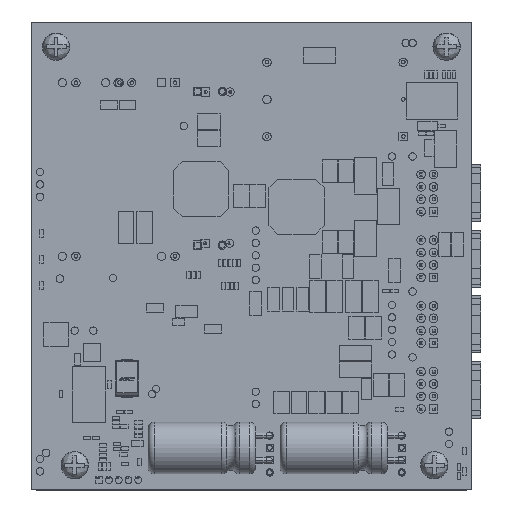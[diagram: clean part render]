
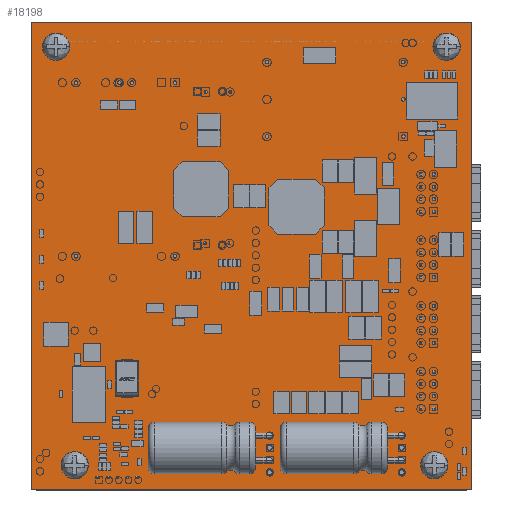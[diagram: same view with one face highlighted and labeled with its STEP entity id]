
A CAD part, front view. The second image highlights one B-rep face of the part: STEP entity #18198.
In plain terms, the highlighted planar face has unit normal (0, -1, 0) as drawn and (0, 0, -1) by its records, which use the part's own axes.
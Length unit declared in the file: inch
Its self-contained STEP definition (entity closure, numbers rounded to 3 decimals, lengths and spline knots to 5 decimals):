
#17951=DIRECTION('',(1.,0.,0.));
#17952=VECTOR('',#17951,3.55);
#17953=CARTESIAN_POINT('',(0.,0.,0.));
#17954=LINE('',#17953,#17952);
#17955=DIRECTION('',(0.,1.,0.));
#17956=VECTOR('',#17955,3.775);
#17957=CARTESIAN_POINT('',(3.55,0.,0.));
#17958=LINE('',#17957,#17956);
#17959=DIRECTION('',(-1.,0.,0.));
#17960=VECTOR('',#17959,3.55);
#17961=CARTESIAN_POINT('',(3.55,3.775,0.));
#17962=LINE('',#17961,#17960);
#17963=DIRECTION('',(0.,-1.,0.));
#17964=VECTOR('',#17963,3.775);
#17965=CARTESIAN_POINT('',(0.,3.775,0.));
#17966=LINE('',#17965,#17964);
#17967=CARTESIAN_POINT('',(3.35,0.2,0.));
#17968=DIRECTION('',(0.,0.,1.));
#17969=DIRECTION('',(1.,0.,0.));
#17970=AXIS2_PLACEMENT_3D('',#17967,#17968,#17969);
#17972=CARTESIAN_POINT('',(3.35,0.2,0.));
#17973=DIRECTION('',(0.,0.,1.));
#17974=DIRECTION('',(-1.,0.,0.));
#17975=AXIS2_PLACEMENT_3D('',#17972,#17973,#17974);
#17977=CARTESIAN_POINT('',(0.2,0.2,0.));
#17978=DIRECTION('',(0.,0.,1.));
#17979=DIRECTION('',(-1.,0.,0.));
#17980=AXIS2_PLACEMENT_3D('',#17977,#17978,#17979);
#17982=CARTESIAN_POINT('',(0.2,0.2,0.));
#17983=DIRECTION('',(0.,0.,1.));
#17984=DIRECTION('',(1.,0.,0.));
#17985=AXIS2_PLACEMENT_3D('',#17982,#17983,#17984);
#17987=CARTESIAN_POINT('',(0.35,3.575,0.));
#17988=DIRECTION('',(0.,0.,1.));
#17989=DIRECTION('',(-1.,0.,0.));
#17990=AXIS2_PLACEMENT_3D('',#17987,#17988,#17989);
#17992=CARTESIAN_POINT('',(0.35,3.575,0.));
#17993=DIRECTION('',(0.,0.,1.));
#17994=DIRECTION('',(1.,0.,0.));
#17995=AXIS2_PLACEMENT_3D('',#17992,#17993,#17994);
#17997=CARTESIAN_POINT('',(3.25,3.575,0.));
#17998=DIRECTION('',(0.,0.,1.));
#17999=DIRECTION('',(-1.,0.,0.));
#18000=AXIS2_PLACEMENT_3D('',#17997,#17998,#17999);
#18002=CARTESIAN_POINT('',(3.25,3.575,0.));
#18003=DIRECTION('',(0.,0.,1.));
#18004=DIRECTION('',(1.,0.,0.));
#18005=AXIS2_PLACEMENT_3D('',#18002,#18003,#18004);
#18111=CARTESIAN_POINT('',(0.,0.,0.));
#18112=CARTESIAN_POINT('',(3.55,0.,0.));
#18113=VERTEX_POINT('',#18111);
#18114=VERTEX_POINT('',#18112);
#18115=CARTESIAN_POINT('',(3.55,3.775,0.));
#18116=VERTEX_POINT('',#18115);
#18117=CARTESIAN_POINT('',(0.,3.775,0.));
#18118=VERTEX_POINT('',#18117);
#18127=CARTESIAN_POINT('',(3.4125,0.2,0.));
#18128=CARTESIAN_POINT('',(3.2875,0.2,0.));
#18129=VERTEX_POINT('',#18127);
#18130=VERTEX_POINT('',#18128);
#18131=CARTESIAN_POINT('',(0.1375,0.2,0.));
#18132=CARTESIAN_POINT('',(0.2625,0.2,0.));
#18133=VERTEX_POINT('',#18131);
#18134=VERTEX_POINT('',#18132);
#18135=CARTESIAN_POINT('',(0.2875,3.575,0.));
#18136=CARTESIAN_POINT('',(0.4125,3.575,0.));
#18137=VERTEX_POINT('',#18135);
#18138=VERTEX_POINT('',#18136);
#18139=CARTESIAN_POINT('',(3.1875,3.575,0.));
#18140=CARTESIAN_POINT('',(3.3125,3.575,0.));
#18141=VERTEX_POINT('',#18139);
#18142=VERTEX_POINT('',#18140);
#18159=CARTESIAN_POINT('',(0.,0.,0.));
#18160=DIRECTION('',(0.,0.,1.));
#18161=DIRECTION('',(1.,0.,0.));
#18162=AXIS2_PLACEMENT_3D('',#18159,#18160,#18161);
#18163=PLANE('',#18162);
#18165=ORIENTED_EDGE('',*,*,#18164,.T.);
#18167=ORIENTED_EDGE('',*,*,#18166,.T.);
#18169=ORIENTED_EDGE('',*,*,#18168,.T.);
#18171=ORIENTED_EDGE('',*,*,#18170,.T.);
#18172=EDGE_LOOP('',(#18165,#18167,#18169,#18171));
#18173=FACE_OUTER_BOUND('',#18172,.F.);
#18175=ORIENTED_EDGE('',*,*,#18174,.F.);
#18177=ORIENTED_EDGE('',*,*,#18176,.F.);
#18178=EDGE_LOOP('',(#18175,#18177));
#18179=FACE_BOUND('',#18178,.F.);
#18181=ORIENTED_EDGE('',*,*,#18180,.F.);
#18183=ORIENTED_EDGE('',*,*,#18182,.F.);
#18184=EDGE_LOOP('',(#18181,#18183));
#18185=FACE_BOUND('',#18184,.F.);
#18187=ORIENTED_EDGE('',*,*,#18186,.F.);
#18189=ORIENTED_EDGE('',*,*,#18188,.F.);
#18190=EDGE_LOOP('',(#18187,#18189));
#18191=FACE_BOUND('',#18190,.F.);
#18193=ORIENTED_EDGE('',*,*,#18192,.F.);
#18195=ORIENTED_EDGE('',*,*,#18194,.F.);
#18196=EDGE_LOOP('',(#18193,#18195));
#18197=FACE_BOUND('',#18196,.F.);
#18198=ADVANCED_FACE('',(#18173,#18179,#18185,#18191,#18197),#18163,.F.);
#17971=CIRCLE('',#17970,0.0625);
#17976=CIRCLE('',#17975,0.0625);
#17981=CIRCLE('',#17980,0.0625);
#17986=CIRCLE('',#17985,0.0625);
#17991=CIRCLE('',#17990,0.0625);
#17996=CIRCLE('',#17995,0.0625);
#18001=CIRCLE('',#18000,0.0625);
#18006=CIRCLE('',#18005,0.0625);
#18164=EDGE_CURVE('',#18113,#18114,#17954,.T.);
#18166=EDGE_CURVE('',#18114,#18116,#17958,.T.);
#18168=EDGE_CURVE('',#18116,#18118,#17962,.T.);
#18170=EDGE_CURVE('',#18118,#18113,#17966,.T.);
#18174=EDGE_CURVE('',#18129,#18130,#17971,.T.);
#18176=EDGE_CURVE('',#18130,#18129,#17976,.T.);
#18180=EDGE_CURVE('',#18133,#18134,#17981,.T.);
#18182=EDGE_CURVE('',#18134,#18133,#17986,.T.);
#18186=EDGE_CURVE('',#18137,#18138,#17991,.T.);
#18188=EDGE_CURVE('',#18138,#18137,#17996,.T.);
#18192=EDGE_CURVE('',#18141,#18142,#18001,.T.);
#18194=EDGE_CURVE('',#18142,#18141,#18006,.T.);
